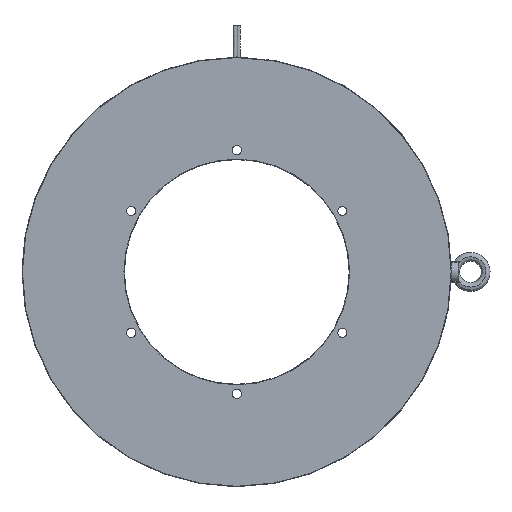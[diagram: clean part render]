
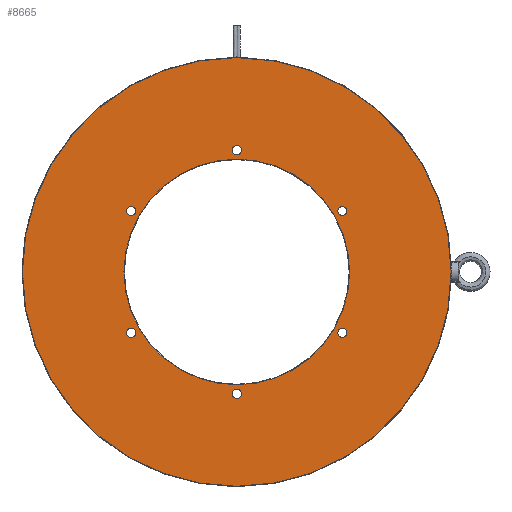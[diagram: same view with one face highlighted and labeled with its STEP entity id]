
A CAD part, left-side view. The second image highlights one B-rep face of the part: STEP entity #8665.
In plain terms, the highlighted planar face has unit normal (-1, 0, 0).
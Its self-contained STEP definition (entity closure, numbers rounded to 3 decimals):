
#1144=FACE_BOUND('',#2013,.T.);
#1145=FACE_BOUND('',#2014,.T.);
#1146=FACE_BOUND('',#2015,.T.);
#1147=FACE_BOUND('',#2016,.T.);
#1148=FACE_BOUND('',#2017,.T.);
#1149=FACE_BOUND('',#2018,.T.);
#1150=FACE_BOUND('',#2019,.T.);
#1459=FACE_OUTER_BOUND('',#2012,.T.);
#2012=EDGE_LOOP('',(#6917,#6918));
#2013=EDGE_LOOP('',(#6919));
#2014=EDGE_LOOP('',(#6920));
#2015=EDGE_LOOP('',(#6921));
#2016=EDGE_LOOP('',(#6922));
#2017=EDGE_LOOP('',(#6923));
#2018=EDGE_LOOP('',(#6924));
#2019=EDGE_LOOP('',(#6925));
#2814=CIRCLE('',#9723,130.5);
#2817=CIRCLE('',#9728,5.25);
#2818=CIRCLE('',#9730,5.25);
#2819=CIRCLE('',#9732,5.25);
#2820=CIRCLE('',#9734,5.25);
#2821=CIRCLE('',#9736,5.25);
#2822=CIRCLE('',#9738,5.25);
#2823=CIRCLE('',#9740,248.);
#2824=CIRCLE('',#9741,248.);
#3743=VERTEX_POINT('',#15736);
#3746=VERTEX_POINT('',#15746);
#3747=VERTEX_POINT('',#15750);
#3748=VERTEX_POINT('',#15754);
#3749=VERTEX_POINT('',#15758);
#3750=VERTEX_POINT('',#15762);
#3751=VERTEX_POINT('',#15766);
#3752=VERTEX_POINT('',#15770);
#3753=VERTEX_POINT('',#15771);
#4837=EDGE_CURVE('',#3743,#3743,#2814,.T.);
#4842=EDGE_CURVE('',#3746,#3746,#2817,.T.);
#4844=EDGE_CURVE('',#3747,#3747,#2818,.T.);
#4846=EDGE_CURVE('',#3748,#3748,#2819,.T.);
#4848=EDGE_CURVE('',#3749,#3749,#2820,.T.);
#4850=EDGE_CURVE('',#3750,#3750,#2821,.T.);
#4852=EDGE_CURVE('',#3751,#3751,#2822,.T.);
#4853=EDGE_CURVE('',#3752,#3753,#2823,.T.);
#4854=EDGE_CURVE('',#3753,#3752,#2824,.T.);
#6917=ORIENTED_EDGE('',*,*,#4853,.T.);
#6918=ORIENTED_EDGE('',*,*,#4854,.T.);
#6919=ORIENTED_EDGE('',*,*,#4852,.T.);
#6920=ORIENTED_EDGE('',*,*,#4850,.T.);
#6921=ORIENTED_EDGE('',*,*,#4848,.T.);
#6922=ORIENTED_EDGE('',*,*,#4846,.T.);
#6923=ORIENTED_EDGE('',*,*,#4844,.T.);
#6924=ORIENTED_EDGE('',*,*,#4842,.T.);
#6925=ORIENTED_EDGE('',*,*,#4837,.F.);
#8012=PLANE('',#9750);
#8665=ADVANCED_FACE('',(#1459,#1144,#1145,#1146,#1147,#1148,#1149,#1150),
#8012,.T.);
#9723=AXIS2_PLACEMENT_3D('',#15738,#12161,#12162);
#9728=AXIS2_PLACEMENT_3D('',#15748,#12173,#12174);
#9730=AXIS2_PLACEMENT_3D('',#15752,#12178,#12179);
#9732=AXIS2_PLACEMENT_3D('',#15756,#12183,#12184);
#9734=AXIS2_PLACEMENT_3D('',#15760,#12188,#12189);
#9736=AXIS2_PLACEMENT_3D('',#15764,#12193,#12194);
#9738=AXIS2_PLACEMENT_3D('',#15768,#12198,#12199);
#9740=AXIS2_PLACEMENT_3D('',#15772,#12202,#12203);
#9741=AXIS2_PLACEMENT_3D('',#15773,#12204,#12205);
#9750=AXIS2_PLACEMENT_3D('',#15792,#12226,#12227);
#12161=DIRECTION('center_axis',(-1.,0.,0.));
#12162=DIRECTION('ref_axis',(0.,-1.,0.));
#12173=DIRECTION('center_axis',(1.,0.,0.));
#12174=DIRECTION('ref_axis',(0.,0.,
-1.));
#12178=DIRECTION('center_axis',(1.,0.,0.));
#12179=DIRECTION('ref_axis',(0.,0.,
-1.));
#12183=DIRECTION('center_axis',(1.,0.,0.));
#12184=DIRECTION('ref_axis',(0.,0.,
-1.));
#12188=DIRECTION('center_axis',(1.,0.,0.));
#12189=DIRECTION('ref_axis',(0.,0.,
-1.));
#12193=DIRECTION('center_axis',(1.,0.,0.));
#12194=DIRECTION('ref_axis',(0.,0.,
-1.));
#12198=DIRECTION('center_axis',(1.,0.,0.));
#12199=DIRECTION('ref_axis',(0.,0.,
-1.));
#12202=DIRECTION('center_axis',(-1.,0.,0.));
#12203=DIRECTION('ref_axis',(0.,1.,0.));
#12204=DIRECTION('center_axis',(-1.,0.,0.));
#12205=DIRECTION('ref_axis',(0.,1.,0.));
#12226=DIRECTION('center_axis',(-1.,0.,0.));
#12227=DIRECTION('ref_axis',(0.,0.,
1.));
#15736=CARTESIAN_POINT('',(-61.926,130.5,0.));
#15738=CARTESIAN_POINT('Origin',(-61.926,0.,
0.));
#15746=CARTESIAN_POINT('',(-61.926,122.11,75.75));
#15748=CARTESIAN_POINT('Origin',(-61.926,122.11,70.5));
#15750=CARTESIAN_POINT('',(-61.926,0.,-135.75));
#15752=CARTESIAN_POINT('Origin',(-61.926,0.,
-141.));
#15754=CARTESIAN_POINT('',(-61.926,-122.11,75.75));
#15756=CARTESIAN_POINT('Origin',(-61.926,-122.11,70.5));
#15758=CARTESIAN_POINT('',(-61.926,0.,146.25));
#15760=CARTESIAN_POINT('Origin',(-61.926,0.,
141.));
#15762=CARTESIAN_POINT('',(-61.926,-122.11,-65.25));
#15764=CARTESIAN_POINT('Origin',(-61.926,-122.11,-70.5));
#15766=CARTESIAN_POINT('',(-61.926,122.11,-65.25));
#15768=CARTESIAN_POINT('Origin',(-61.926,122.11,-70.5));
#15770=CARTESIAN_POINT('',(-61.926,248.,0.));
#15771=CARTESIAN_POINT('',(-61.926,-248.,0.));
#15772=CARTESIAN_POINT('Origin',(-61.926,0.,
0.));
#15773=CARTESIAN_POINT('Origin',(-61.926,0.,
0.));
#15792=CARTESIAN_POINT('Origin',(-61.926,189.,0.));
